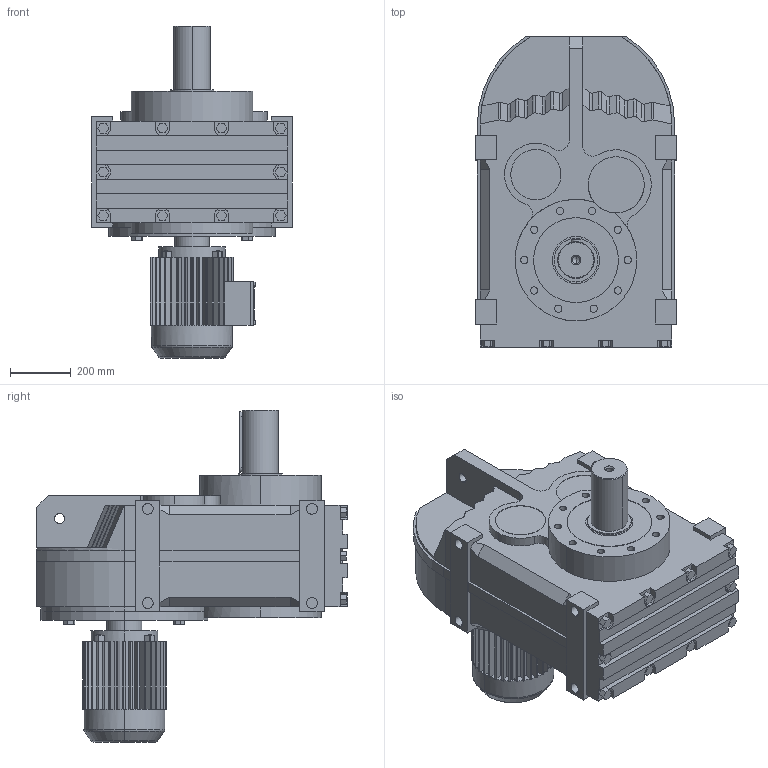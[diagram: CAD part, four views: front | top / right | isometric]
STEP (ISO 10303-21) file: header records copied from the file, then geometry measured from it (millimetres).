
FILE_DESCRIPTION(('Open CASCADE Model'),'2;1');
FILE_NAME('Open CASCADE Shape Model','2018-09-11T15:25:09',('Author'),( 'Open CASCADE'),'Open CASCADE STEP processor 6.3','Open CASCADE 6.3' ,'Unknown');
FILE_SCHEMA(('AUTOMOTIVE_DESIGN_CC2 { 1 2 10303 214 -1 1 5 4 }'));
Length unit declared in the file: millimetre
Products named in the file (4): 1_F157-Y132M; FA27‵157_157.step; 萇儂_550_Y132M.step; す瑩妗陑粣F_157.step
Assembly tree (3 placements, depth 2):
  1_F157-Y132M
    FA27‵157_157.step
    萇儂_550_Y132M.step
    す瑩妗陑粣F_157.step
Bounding box: 660 x 1021 x 1092 mm (x, y, z)
Volume: 242938732.1 mm3; surface area: 4610184.6 mm2
Topology: 3 solids, 3 shells, 794 faces, 2088 edges, 1358 vertices
Faces by surface type: plane 563, cylinder 203, bspline 16, cone 8, torus 4
Entity records: 53473 total; most frequent: CARTESIAN_POINT 13521, DIRECTION 6971, ORIENTED_EDGE 4172, PCURVE 4172, DEFINITIONAL_REPRESENTATION 4172, LINE 3883, VECTOR 3883, EDGE_CURVE 2086
